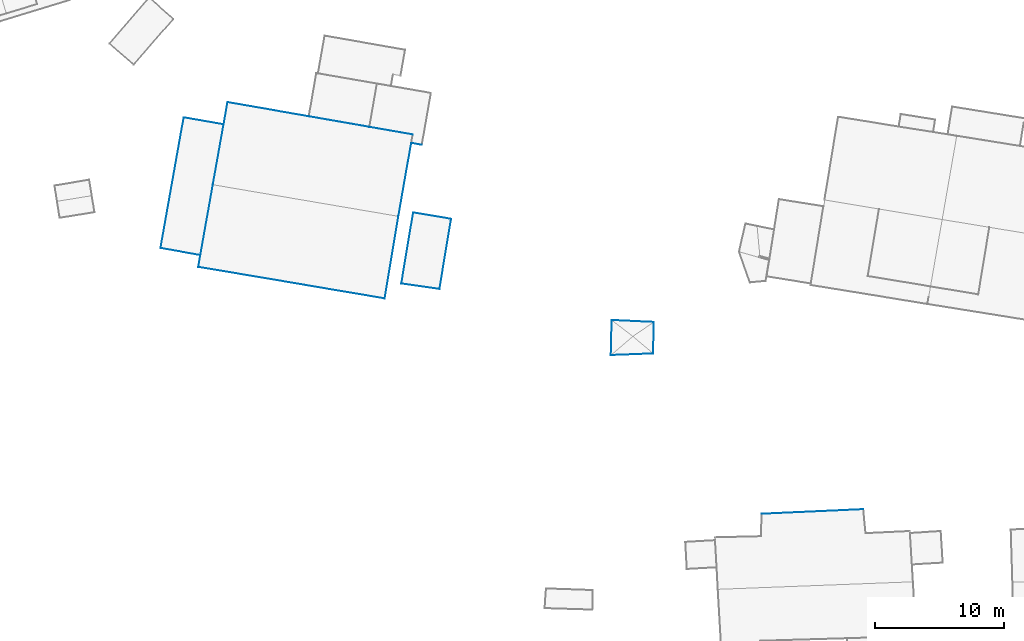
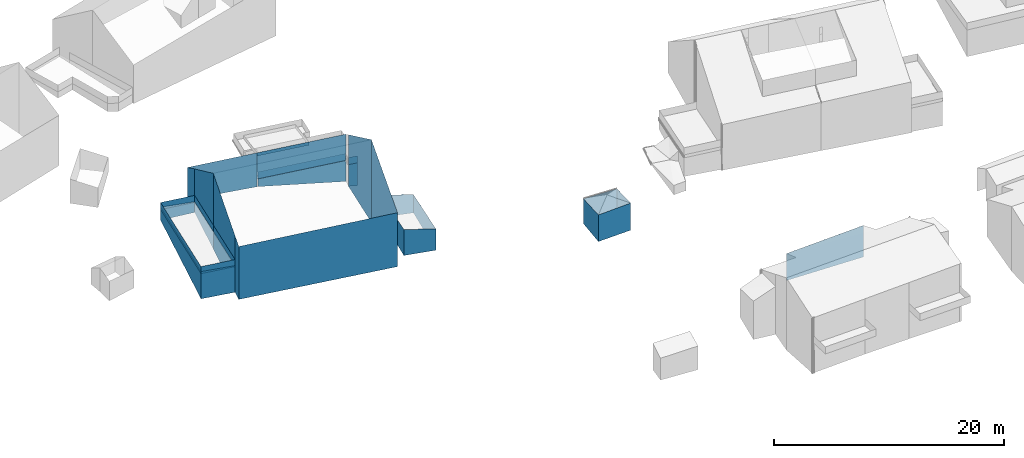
# Not in any storey, part 11 of 57: 47 walls.
"""IFC4 building model written with IfcOpenShell, lengths in metres."""

from ifc_helpers import new_model, entity, si_unit, converted_unit, frame, origin, place, context, subcontext, project, spatial, face_set, surface_model, element, save


model = new_model("IFC4")

# Units and contexts
model_context = context("Model", 3, precision=1e-05, world=origin())
body_context = subcontext(model_context, "Body", "Model", "MODEL_VIEW")
ifc_project = project(units=[converted_unit("PLANEANGLEUNIT", "DEGREE", entity("IfcRatioMeasure", 0.0174532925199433), si_unit("PLANEANGLEUNIT", "RADIAN"), dimensions=[0, 0, 0, 0, 0, 0, 0]), si_unit("AREAUNIT", "SQUARE_METRE"), si_unit("LENGTHUNIT", "METRE")], contexts=[model_context])

# Site, building
site_placement = place(None, origin())
site = spatial("IfcSite", under=ifc_project, at=site_placement, Name="_site")
building_1_placement = place(site_placement, origin())
building_1 = spatial("IfcBuilding", under=site, at=building_1_placement, Name="_building")

# Walls
wall_1_placement = place(building_1_placement, origin())
element("IfcWall", 1, at=wall_1_placement, inside=building_1, Name="Wall", PredefinedType="NOTDEFINED", context=body_context, shape_type="SurfaceModel", body=[
    surface_model("IfcFaceBasedSurfaceModel", [(180.491, 83.921, 111.23), (183.759, 83.774, 111.23), (183.759, 83.774, 108.44), (180.491, 83.921, 108.596)], [face_set([[[0, 1, 2, 3]]])]),
])
wall_2_placement = place(building_1_placement, origin())
element("IfcWall", 2, at=wall_2_placement, inside=building_1, Name="Wall", PredefinedType="NOTDEFINED", context=body_context, shape_type="SurfaceModel", body=[
    surface_model("IfcFaceBasedSurfaceModel", [(183.759, 83.774, 111.23), (183.722, 81.324, 111.21), (183.722, 81.324, 108.337), (183.759, 83.774, 108.44)], [face_set([[[0, 1, 2, 3]]])]),
])
wall_3_placement = place(building_1_placement, origin())
element("IfcWall", 3, at=wall_3_placement, inside=building_1, Name="Wall", PredefinedType="NOTDEFINED", context=body_context, shape_type="SurfaceModel", body=[
    surface_model("IfcFaceBasedSurfaceModel", [(180.427, 81.201, 111.18), (180.491, 83.921, 111.23), (180.491, 83.921, 108.596), (180.427, 81.201, 108.359)], [face_set([[[0, 1, 2, 3]]])]),
])
wall_4_placement = place(building_1_placement, origin())
element("IfcWall", 4, at=wall_4_placement, inside=building_1, Name="Wall", PredefinedType="NOTDEFINED", context=body_context, shape_type="SurfaceModel", body=[
    surface_model("IfcFaceBasedSurfaceModel", [(183.722, 81.324, 111.21), (180.427, 81.201, 111.18), (180.427, 81.201, 108.359), (183.722, 81.324, 108.337)], [face_set([[[0, 1, 2, 3]]])]),
])

# Building
building_2_placement = place(site_placement, origin())
building_2 = spatial("IfcBuilding", under=site, at=building_2_placement, Name="_building")

# Walls
wall_5_placement = place(building_2_placement, origin())
element("IfcWall", 5, at=wall_5_placement, inside=building_2, Name="Wall", PredefinedType="NOTDEFINED", context=body_context, shape_type="SurfaceModel", body=[
    surface_model("IfcFaceBasedSurfaceModel", [(167.099, 86.336, 111.26), (164.137, 86.766, 111.96), (164.137, 86.766, 109.21), (167.099, 86.336, 108.998)], [face_set([[[0, 1, 2, 3]]])]),
])
wall_6_placement = place(building_2_placement, origin())
element("IfcWall", 6, at=wall_6_placement, inside=building_2, Name="Wall", PredefinedType="NOTDEFINED", context=body_context, shape_type="SurfaceModel", body=[
    surface_model("IfcFaceBasedSurfaceModel", [(168.007, 91.788, 111.26), (167.099, 86.336, 111.26), (167.099, 86.336, 108.998), (168.007, 91.788, 109.33)], [face_set([[[0, 1, 2, 3]]])]),
])
wall_7_placement = place(building_2_placement, origin())
element("IfcWall", 7, at=wall_7_placement, inside=building_2, Name="Wall", PredefinedType="NOTDEFINED", context=body_context, shape_type="SurfaceModel", body=[
    surface_model("IfcFaceBasedSurfaceModel", [(165.057, 92.287, 111.96), (168.007, 91.788, 111.26), (168.007, 91.788, 109.33), (165.057, 92.287, 109.576)], [face_set([[[0, 1, 2, 3]]])]),
])
wall_8_placement = place(building_2_placement, origin())
element("IfcWall", 8, at=wall_8_placement, inside=building_2, Name="Wall", PredefinedType="NOTDEFINED", context=body_context, shape_type="SurfaceModel", body=[
    surface_model("IfcFaceBasedSurfaceModel", [(164.137, 86.766, 111.96), (165.057, 92.287, 111.96), (165.057, 92.287, 109.576), (164.137, 86.766, 109.21)], [face_set([[[0, 1, 2, 3]]])]),
])

# Building
building_3_placement = place(site_placement, origin())
building_3 = spatial("IfcBuilding", under=site, at=building_3_placement, Name="_building")

# Walls
wall_9_placement = place(building_3_placement, origin())
element("IfcWall", 9, at=wall_9_placement, inside=building_3, Name="Wall", PredefinedType="NOTDEFINED", context=body_context, shape_type="SurfaceModel", body=[
    surface_model("IfcFaceBasedSurfaceModel", [(165.73, 97.545, 111.94), (164.903, 97.694, 111.94), (164.903, 97.694, 109.642), (165.73, 97.545, 109.511)], [face_set([[[0, 1, 2, 3]]])]),
])
wall_10_placement = place(building_3_placement, origin())
element("IfcWall", 10, at=wall_10_placement, inside=building_3, Name="Wall", PredefinedType="NOTDEFINED", context=body_context, shape_type="SurfaceModel", body=[
    surface_model("IfcFaceBasedSurfaceModel", [(165.73, 97.545, 111.96), (164.903, 97.694, 111.96), (164.903, 97.694, 109.642), (165.73, 97.545, 109.511)], [face_set([[[0, 1, 2, 3]]])]),
])
for number, where, name in (
    (11, (0.0, 0.0, 0.0), "Wall"),
    (12, (0.0, 0.0, 0.0), "Wall"),
):
    element("IfcWall", number, at=place(building_3_placement, frame(where)), inside=building_3, Name=name, PredefinedType="NOTDEFINED", context=body_context, shape_type="SurfaceModel", body=[
        surface_model("IfcFaceBasedSurfaceModel", [(165.73, 97.545, 111.94), (164.903, 97.694, 111.94), (164.903, 97.694, 112.69), (165.73, 97.545, 112.69)], [face_set([[[0, 1, 2, 3]]])]),
    ])

# Building
building_4_placement = place(site_placement, origin())
building_4 = spatial("IfcBuilding", under=site, at=building_4_placement, Name="_building")

# Walls
wall_11_placement = place(building_4_placement, origin())
element("IfcWall", 13, at=wall_11_placement, inside=building_4, Name="Wall", PredefinedType="NOTDEFINED", context=body_context, shape_type="SurfaceModel", body=[
    surface_model("IfcFaceBasedSurfaceModel", [(147.219, 99.679, 112.17), (150.318, 99.137, 112.17), (150.318, 99.137, 111.11), (147.219, 99.679, 111.048)], [face_set([[[0, 1, 2, 3]]])]),
])
wall_12_placement = place(building_4_placement, origin())
element("IfcWall", 14, at=wall_12_placement, inside=building_4, Name="Wall", PredefinedType="NOTDEFINED", context=body_context, shape_type="SurfaceModel", body=[
    surface_model("IfcFaceBasedSurfaceModel", [(145.41, 89.525, 112.17), (147.219, 99.679, 112.17), (147.219, 99.679, 111.048), (145.41, 89.525, 109.503)], [face_set([[[0, 1, 2, 3]]])]),
])
wall_13_placement = place(building_4_placement, origin())
element("IfcWall", 15, at=wall_13_placement, inside=building_4, Name="Wall", PredefinedType="NOTDEFINED", context=body_context, shape_type="SurfaceModel", body=[
    surface_model("IfcFaceBasedSurfaceModel", [(148.509, 88.972, 112.17), (145.41, 89.525, 112.17), (145.41, 89.525, 109.503), (148.509, 88.972, 109.457)], [face_set([[[0, 1, 2, 3]]])]),
])
wall_14_placement = place(building_4_placement, origin())
element("IfcWall", 16, at=wall_14_placement, inside=building_4, Name="Wall", PredefinedType="NOTDEFINED", context=body_context, shape_type="SurfaceModel", body=[
    surface_model("IfcFaceBasedSurfaceModel", [(147.219, 99.679, 112.42), (150.318, 99.137, 112.25), (150.318, 99.137, 111.11), (147.219, 99.679, 111.048)], [face_set([[[0, 1, 2, 3]]])]),
])
wall_15_placement = place(building_4_placement, origin())
element("IfcWall", 17, at=wall_15_placement, inside=building_4, Name="Wall", PredefinedType="NOTDEFINED", context=body_context, shape_type="SurfaceModel", body=[
    surface_model("IfcFaceBasedSurfaceModel", [(145.41, 89.525, 112.39), (147.219, 99.679, 112.42), (147.219, 99.679, 111.048), (145.41, 89.525, 109.503)], [face_set([[[0, 1, 2, 3]]])]),
])
wall_16_placement = place(building_4_placement, origin())
element("IfcWall", 18, at=wall_16_placement, inside=building_4, Name="Wall", PredefinedType="NOTDEFINED", context=body_context, shape_type="SurfaceModel", body=[
    surface_model("IfcFaceBasedSurfaceModel", [(148.509, 88.972, 112.28), (145.41, 89.525, 112.39), (145.41, 89.525, 109.503), (148.509, 88.972, 109.457)], [face_set([[[0, 1, 2, 3]]])]),
])
wall_17_placement = place(building_4_placement, origin())
element("IfcWall", 19, at=wall_17_placement, inside=building_4, Name="Wall", PredefinedType="NOTDEFINED", context=body_context, shape_type="SurfaceModel", body=[
    surface_model("IfcFaceBasedSurfaceModel", [(149.481, 94.453, 112.264), (148.509, 88.972, 112.28), (148.509, 88.972, 109.457), (149.481, 94.453, 110.373)], [face_set([[[0, 1, 2, 3]]])]),
])
wall_18_placement = place(building_4_placement, origin())
element("IfcWall", 20, at=wall_18_placement, inside=building_4, Name="Wall", PredefinedType="NOTDEFINED", context=body_context, shape_type="SurfaceModel", body=[
    surface_model("IfcFaceBasedSurfaceModel", [(150.318, 99.137, 112.25), (149.481, 94.453, 112.264), (149.481, 94.453, 110.373), (150.318, 99.137, 111.11)], [face_set([[[0, 1, 2, 3]]])]),
])
wall_19_placement = place(building_4_placement, origin())
element("IfcWall", 21, at=wall_19_placement, inside=building_4, Name="Wall", PredefinedType="NOTDEFINED", context=body_context, shape_type="SurfaceModel", body=[
    surface_model("IfcFaceBasedSurfaceModel", [(149.481, 94.453, 112.17), (150.318, 99.137, 112.17), (150.318, 99.137, 112.92), (149.481, 94.453, 112.92)], [face_set([[[0, 1, 2, 3]]])]),
])
wall_20_placement = place(building_4_placement, origin())
element("IfcWall", 22, at=wall_20_placement, inside=building_4, Name="Wall", PredefinedType="NOTDEFINED", context=body_context, shape_type="SurfaceModel", body=[
    surface_model("IfcFaceBasedSurfaceModel", [(148.509, 88.972, 112.17), (149.481, 94.453, 112.17), (149.481, 94.453, 112.92), (148.509, 88.972, 112.92)], [face_set([[[0, 1, 2, 3]]])]),
])
wall_21_placement = place(building_4_placement, origin())
element("IfcWall", 23, at=wall_21_placement, inside=building_4, Name="Wall", PredefinedType="NOTDEFINED", context=body_context, shape_type="SurfaceModel", body=[
    surface_model("IfcFaceBasedSurfaceModel", [(145.41, 89.525, 112.17), (148.509, 88.972, 112.17), (148.509, 88.972, 112.92), (145.41, 89.525, 112.92)], [face_set([[[0, 1, 2, 3]]])]),
])
wall_22_placement = place(building_4_placement, origin())
element("IfcWall", 24, at=wall_22_placement, inside=building_4, Name="Wall", PredefinedType="NOTDEFINED", context=body_context, shape_type="SurfaceModel", body=[
    surface_model("IfcFaceBasedSurfaceModel", [(147.219, 99.679, 112.17), (145.41, 89.525, 112.17), (145.41, 89.525, 112.92), (147.219, 99.679, 112.92)], [face_set([[[0, 1, 2, 3]]])]),
])
wall_23_placement = place(building_4_placement, origin())
element("IfcWall", 25, at=wall_23_placement, inside=building_4, Name="Wall", PredefinedType="NOTDEFINED", context=body_context, shape_type="SurfaceModel", body=[
    surface_model("IfcFaceBasedSurfaceModel", [(150.318, 99.137, 112.17), (147.219, 99.679, 112.17), (147.219, 99.679, 112.92), (150.318, 99.137, 112.92)], [face_set([[[0, 1, 2, 3]]])]),
])
wall_24_placement = place(building_4_placement, origin())
element("IfcWall", 26, at=wall_24_placement, inside=building_4, Name="Wall", PredefinedType="NOTDEFINED", context=body_context, shape_type="SurfaceModel", body=[
    surface_model("IfcFaceBasedSurfaceModel", [(149.481, 94.453, 112.17), (150.318, 99.137, 112.17), (150.318, 99.137, 112.92), (149.481, 94.453, 112.92)], [face_set([[[0, 1, 2, 3]]])]),
])
wall_25_placement = place(building_4_placement, origin())
element("IfcWall", 27, at=wall_25_placement, inside=building_4, Name="Wall", PredefinedType="NOTDEFINED", context=body_context, shape_type="SurfaceModel", body=[
    surface_model("IfcFaceBasedSurfaceModel", [(148.509, 88.972, 112.17), (149.481, 94.453, 112.17), (149.481, 94.453, 112.92), (148.509, 88.972, 112.92)], [face_set([[[0, 1, 2, 3]]])]),
])
wall_26_placement = place(building_4_placement, origin())
element("IfcWall", 28, at=wall_26_placement, inside=building_4, Name="Wall", PredefinedType="NOTDEFINED", context=body_context, shape_type="SurfaceModel", body=[
    surface_model("IfcFaceBasedSurfaceModel", [(145.41, 89.525, 112.17), (148.509, 88.972, 112.17), (148.509, 88.972, 112.92), (145.41, 89.525, 112.92)], [face_set([[[0, 1, 2, 3]]])]),
])
wall_27_placement = place(building_4_placement, origin())
element("IfcWall", 29, at=wall_27_placement, inside=building_4, Name="Wall", PredefinedType="NOTDEFINED", context=body_context, shape_type="SurfaceModel", body=[
    surface_model("IfcFaceBasedSurfaceModel", [(147.219, 99.679, 112.17), (145.41, 89.525, 112.17), (145.41, 89.525, 112.92), (147.219, 99.679, 112.92)], [face_set([[[0, 1, 2, 3]]])]),
])
wall_28_placement = place(building_4_placement, origin())
element("IfcWall", 30, at=wall_28_placement, inside=building_4, Name="Wall", PredefinedType="NOTDEFINED", context=body_context, shape_type="SurfaceModel", body=[
    surface_model("IfcFaceBasedSurfaceModel", [(150.318, 99.137, 112.17), (147.219, 99.679, 112.17), (147.219, 99.679, 112.92), (150.318, 99.137, 112.92)], [face_set([[[0, 1, 2, 3]]])]),
])

# Building
building_5_placement = place(site_placement, origin())
building_5 = spatial("IfcBuilding", under=site, at=building_5_placement, Name="_building")

# Walls
for number, where, name in (
    (31, (0.0, 0.0, 0.0), "Wall"),
    (32, (0.0, 0.0, 0.0), "Wall"),
):
    element("IfcWall", number, at=place(building_5_placement, frame(where)), inside=building_5, Name=name, PredefinedType="NOTDEFINED", context=body_context, shape_type="SurfaceModel", body=[
        surface_model("IfcFaceBasedSurfaceModel", [(161.651, 98.941, 114.73), (156.947, 99.762, 114.73), (156.947, 99.762, 114.38), (161.651, 98.941, 114.38)], [face_set([[[0, 1, 2, 3]]])]),
    ])
wall_29_placement = place(building_5_placement, origin())
element("IfcWall", 33, at=wall_29_placement, inside=building_5, Name="Wall", PredefinedType="NOTDEFINED", context=body_context, shape_type="SurfaceModel", body=[
    surface_model("IfcFaceBasedSurfaceModel", [(149.481, 94.453, 112.17), (148.509, 88.972, 112.17), (148.509, 88.972, 109.457), (149.481, 94.453, 110.373)], [face_set([[[0, 1, 2, 3]]])]),
])
wall_30_placement = place(building_5_placement, origin())
element("IfcWall", 34, at=wall_30_placement, inside=building_5, Name="Wall", PredefinedType="NOTDEFINED", context=body_context, shape_type="SurfaceModel", body=[
    surface_model("IfcFaceBasedSurfaceModel", [(156.947, 99.762, 114.73), (165.019, 98.352, 114.73), (165.019, 98.352, 111.96), (156.947, 99.762, 111.96)], [face_set([[[0, 1, 2, 3]]])]),
])
wall_31_placement = place(building_5_placement, origin())
element("IfcWall", 35, at=wall_31_placement, inside=building_5, Name="Wall", PredefinedType="NOTDEFINED", context=body_context, shape_type="SurfaceModel", body=[
    surface_model("IfcFaceBasedSurfaceModel", [(150.619, 100.861, 114.73), (156.947, 99.762, 114.73), (156.947, 99.762, 111.134), (150.619, 100.861, 111.309)], [face_set([[[0, 1, 2, 3]]])]),
])
wall_32_placement = place(building_5_placement, origin())
element("IfcWall", 36, at=wall_32_placement, inside=building_5, Name="Wall", PredefinedType="NOTDEFINED", context=body_context, shape_type="SurfaceModel", body=[
    surface_model("IfcFaceBasedSurfaceModel", [(163.909, 91.994, 118.39), (162.839, 85.605, 114.91), (162.839, 85.605, 109.194), (163.909, 91.994, 109.617)], [face_set([[[0, 1, 2, 3]]])]),
])
wall_33_placement = place(building_5_placement, origin())
element("IfcWall", 37, at=wall_33_placement, inside=building_5, Name="Wall", PredefinedType="NOTDEFINED", context=body_context, shape_type="SurfaceModel", body=[
    surface_model("IfcFaceBasedSurfaceModel", [(162.839, 85.605, 114.91), (148.348, 88.056, 114.91), (148.348, 88.056, 109.307), (162.839, 85.605, 109.194)], [face_set([[[0, 1, 2, 3]]])]),
])
wall_34_placement = place(building_5_placement, origin())
element("IfcWall", 38, at=wall_34_placement, inside=building_5, Name="Wall", PredefinedType="NOTDEFINED", context=body_context, shape_type="SurfaceModel", body=[
    surface_model("IfcFaceBasedSurfaceModel", [(148.509, 88.972, 115.41), (149.481, 94.453, 118.39), (149.481, 94.453, 112.17), (148.509, 88.972, 112.17)], [face_set([[[0, 1, 2, 3]]])]),
])
wall_35_placement = place(building_5_placement, origin())
element("IfcWall", 39, at=wall_35_placement, inside=building_5, Name="Wall", PredefinedType="NOTDEFINED", context=body_context, shape_type="SurfaceModel", body=[
    surface_model("IfcFaceBasedSurfaceModel", [(164.903, 97.694, 115.11), (163.909, 91.994, 118.39), (163.909, 91.994, 109.617), (164.903, 97.694, 109.642)], [face_set([[[0, 1, 2, 3]]])]),
])
wall_36_placement = place(building_5_placement, origin())
element("IfcWall", 40, at=wall_36_placement, inside=building_5, Name="Wall", PredefinedType="NOTDEFINED", context=body_context, shape_type="SurfaceModel", body=[
    surface_model("IfcFaceBasedSurfaceModel", [(150.318, 99.137, 115.72), (150.619, 100.861, 114.73), (150.619, 100.861, 111.309), (150.318, 99.137, 111.11)], [face_set([[[0, 1, 2, 3]]])]),
])
wall_37_placement = place(building_5_placement, origin())
element("IfcWall", 41, at=wall_37_placement, inside=building_5, Name="Wall", PredefinedType="NOTDEFINED", context=body_context, shape_type="SurfaceModel", body=[
    surface_model("IfcFaceBasedSurfaceModel", [(150.318, 99.137, 112.17), (149.481, 94.453, 112.17), (149.481, 94.453, 110.373), (150.318, 99.137, 111.11)], [face_set([[[0, 1, 2, 3]]])]),
])
wall_38_placement = place(building_5_placement, origin())
element("IfcWall", 42, at=wall_38_placement, inside=building_5, Name="Wall", PredefinedType="NOTDEFINED", context=body_context, shape_type="SurfaceModel", body=[
    surface_model("IfcFaceBasedSurfaceModel", [(165.019, 98.352, 111.94), (157.017, 99.75, 111.94), (157.017, 99.75, 111.125), (165.019, 98.352, 109.727)], [face_set([[[0, 1, 2, 3]]])]),
])
wall_39_placement = place(building_5_placement, origin())
element("IfcWall", 43, at=wall_39_placement, inside=building_5, Name="Wall", PredefinedType="NOTDEFINED", context=body_context, shape_type="SurfaceModel", body=[
    surface_model("IfcFaceBasedSurfaceModel", [(149.481, 94.453, 118.39), (150.318, 99.137, 115.72), (150.318, 99.137, 112.17), (149.481, 94.453, 112.17)], [face_set([[[0, 1, 2, 3]]])]),
])
wall_40_placement = place(building_5_placement, origin())
element("IfcWall", 44, at=wall_40_placement, inside=building_5, Name="Wall", PredefinedType="NOTDEFINED", context=body_context, shape_type="SurfaceModel", body=[
    surface_model("IfcFaceBasedSurfaceModel", [(148.348, 88.056, 114.91), (148.509, 88.972, 115.41), (148.509, 88.972, 109.457), (148.348, 88.056, 109.307)], [face_set([[[0, 1, 2, 3]]])]),
])
for number, where, name in (
    (45, (0.0, 0.0, 0.0), "Wall"),
    (46, (0.0, 0.0, 0.0), "Wall"),
):
    element("IfcWall", number, at=place(building_5_placement, frame(where)), inside=building_5, Name=name, PredefinedType="NOTDEFINED", context=body_context, shape_type="SurfaceModel", body=[
        surface_model("IfcFaceBasedSurfaceModel", [(165.019, 98.352, 111.94), (157.017, 99.75, 111.94), (157.017, 99.75, 112.69), (165.019, 98.352, 112.69)], [face_set([[[0, 1, 2, 3]]])]),
    ])

# Building
building_6_placement = place(site_placement, origin())
building_6 = spatial("IfcBuilding", under=site, at=building_6_placement, Name="_building")

# Wall
wall_41_placement = place(building_6_placement, origin())
element("IfcWall", 47, at=wall_41_placement, inside=building_6, Name="Wall", PredefinedType="NOTDEFINED", context=body_context, shape_type="SurfaceModel", body=[
    surface_model("IfcFaceBasedSurfaceModel", [(192.156, 68.859, 110.47), (200.059, 69.214, 110.47), (200.059, 69.214, 107.124), (192.156, 68.859, 107.608)], [face_set([[[0, 1, 2, 3]]])]),
])

save(model, "model.ifc")
